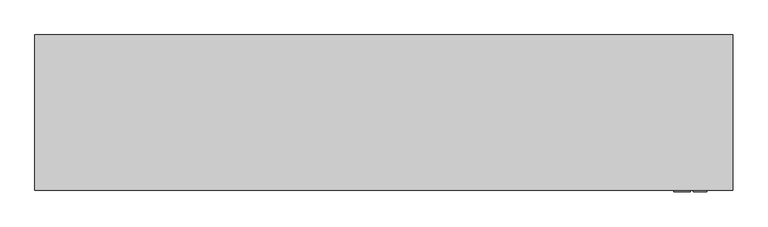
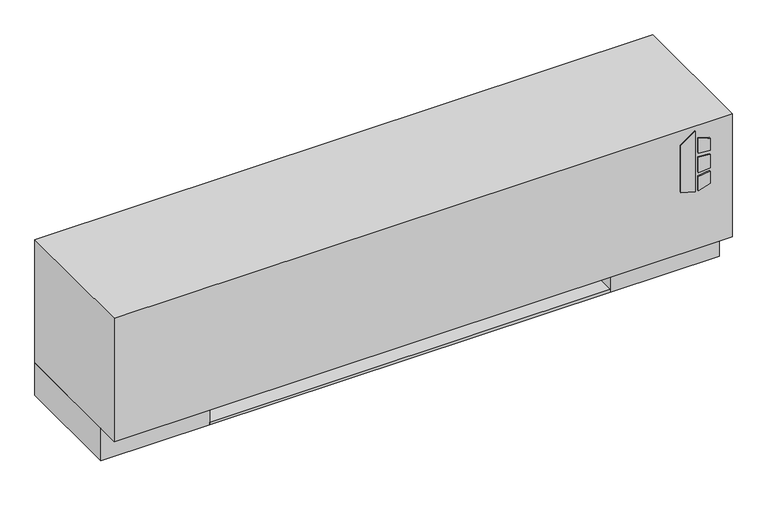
"""IFC4 building model written with IfcOpenShell, lengths in millimetres: proxy geometry, Exposed_Low_Boy_Fan_Coil_Unit Fan_-_LXA_-_IEC_-_4-Pipe_LH_2022 : Size 04 - 277v/60Hz/1Ph - 2/1 Coil."""

from ifc_helpers import new_model, si_unit, point, frame, frame_2d, origin, origin_with_axes, place, context, project, spatial, polyline, circle_curve, trimmed, segment, composite_curve, outline, extrude, faceted_brep, source, transform, mapped, element, save


def mechanical_equipment_2964302d(model_context):
    return source(origin(), model_context, "Body", "SolidModel", [
        faceted_brep([(1460.5, -266.7, 114.3), (1282.7, -266.7, 114.3), (1282.7, -520.7, 114.3), (1460.5, -520.7, 114.3), (1285.875, -269.875, 114.3), (1457.325, -269.875, 114.3), (1457.325, -517.525, 114.3), (1285.875, -517.525, 114.3), (1460.5, -266.7, 88.9), (1460.5, -520.7, 88.9), (1282.7, -520.7, 88.9), (1282.7, -266.7, 88.9), (1457.325, -269.875, 92.0747888), (1285.875, -269.875, 92.0747888), (1285.875, -517.525, 92.0747888), (1457.325, -517.525, 92.0747888)], [[[0, 1, 2, 3], [4, 5, 6, 7]], [[8, 9, 10, 11]], [[1, 0, 8, 11]], [[2, 1, 11, 10]], [[3, 2, 10, 9]], [[0, 3, 9, 8]], [[12, 13, 14, 15]], [[13, 12, 5, 4]], [[14, 13, 4, 7]], [[15, 14, 7, 6]], [[12, 15, 6, 5]]]),
        extrude(outline(composite_curve([segment(trimmed(circle_curve(frame_2d((1371.6, -393.7)), 9.525), [point((1362.075, -393.7))], [point((1381.125, -393.7))], False, "CARTESIAN"), True, "CONTINUOUS"), segment(trimmed(circle_curve(frame_2d((1371.6, -393.7)), 9.525), [point((1381.125, -393.7))], [point((1362.075, -393.7))], False, "CARTESIAN"), True, "CONTINUOUS")], self_intersect=False)), frame((0.0, 0.0, 63.5), z_axis=(0.0, 0.0, 1.0), x_axis=(1.0, 0.0, 0.0)), (0.0, 0.0, 1.0), 25.4),
        extrude(outline(polyline([(222.6730703, 1408.1868862), (212.725, 1440.3602728), (354.8959244, 1440.3602728), (331.8739183, 1408.1868862), (222.6730703, 1408.1868862)])), frame((0.0, -546.1, 0.0), z_axis=(0.0, 1.0, 0.0), x_axis=(0.0, 0.0, 1.0)), (0.0, 0.0, 1.0), 3.175),
        extrude(outline(polyline([(301.6723557, 1447.1186058), (298.4699632, 1473.2), (327.6988042, 1473.2), (335.7632193, 1447.1186058), (301.6723557, 1447.1186058)])), frame((0.0, -546.1, 0.0), z_axis=(0.0, 1.0, 0.0), x_axis=(0.0, 0.0, 1.0)), (0.0, 0.0, 1.0), 3.175),
        extrude(outline(polyline([(249.8088288, 1473.2), (246.1433279, 1447.1186058), (212.725, 1447.1186058), (221.3592372, 1473.2), (249.8088288, 1473.2)])), frame((0.0, -546.1, 0.0), z_axis=(0.0, 1.0, 0.0), x_axis=(0.0, 0.0, 1.0)), (0.0, 0.0, 1.0), 3.175),
        extrude(outline(polyline([(289.1239903, 1473.2), (291.4058166, 1447.1186058), (255.4682681, 1447.1186058), (258.2095331, 1473.2), (289.1239903, 1473.2)])), frame((0.0, -546.1, 0.0), z_axis=(0.0, 1.0, 0.0), x_axis=(0.0, 0.0, 1.0)), (0.0, 0.0, 1.0), 3.175),
        faceted_brep([(1524.0, -238.125, 365.125), (152.4, -238.125, 365.125), (152.4, -542.925, 365.125), (1524.0, -542.925, 365.125), (1524.0, -238.125, 76.2), (1524.0, -542.925, 76.2), (152.4, -542.925, 76.2), (152.4, -238.125, 76.2), (165.1, -238.125, 76.2), (165.1, -517.525, 76.2), (393.7, -517.525, 76.2), (393.7, -238.125, 76.2), (1282.7, -238.125, 76.2), (1282.7, -517.525, 76.2), (1511.3, -517.525, 76.2), (1511.3, -238.125, 76.2), (1511.3, -238.125, 339.725), (1282.7, -238.125, 339.725), (393.7, -238.125, 339.725), (165.1, -238.125, 339.725), (1511.3, -517.525, 339.725), (1282.7, -517.525, 339.725), (393.7, -517.525, 339.725), (165.1, -517.525, 339.725)], [[[0, 1, 2, 3]], [[4, 5, 6, 7, 8, 9, 10, 11, 12, 13, 14, 15]], [[1, 0, 4, 15, 16, 17, 12, 11, 18, 19, 8, 7]], [[2, 1, 7, 6]], [[3, 2, 6, 5]], [[0, 3, 5, 4]], [[16, 20, 21, 17]], [[18, 22, 23, 19]], [[17, 21, 13, 12]], [[21, 20, 14, 13]], [[20, 16, 15, 14]], [[19, 23, 9, 8]], [[23, 22, 10, 9]], [[22, 18, 11, 10]]]),
        extrude(outline(polyline([(1282.7, -492.125), (393.7, -492.125), (393.7, -244.475), (1282.7, -244.475), (1282.7, -492.125)])), origin_with_axes(), (0.0, 0.0, 1.0), 6.35),
        extrude(outline(polyline([(1282.7, -238.125), (1282.7, -244.475), (393.7, -244.475), (393.7, -238.125), (1282.7, -238.125)])), origin_with_axes(), (0.0, 0.0, 1.0), 76.2),
        extrude(outline(polyline([(1524.0, -238.125), (1524.0, -492.125), (1282.7, -492.125), (1282.7, -238.125), (1524.0, -238.125)]), holes=[polyline([(1295.4, -485.775), (1511.3, -485.775), (1511.3, -244.475), (1295.4, -244.475), (1295.4, -485.775)])]), origin_with_axes(), (0.0, 0.0, 1.0), 76.2),
        extrude(outline(polyline([(393.7, -238.125), (393.7, -492.125), (152.4, -492.125), (152.4, -238.125), (393.7, -238.125)]), holes=[polyline([(381.0, -244.475), (165.1, -244.475), (165.1, -485.775), (381.0, -485.775), (381.0, -244.475)])]), origin_with_axes(), (0.0, 0.0, 1.0), 76.2),
        extrude(outline(composite_curve([segment(trimmed(circle_curve(frame_2d((-485.775, 268.2875)), 7.9375), [point((-485.775, 260.35))], [point((-485.775, 276.225))], False, "CARTESIAN"), True, "CONTINUOUS"), segment(trimmed(circle_curve(frame_2d((-485.775, 268.2875)), 7.9375), [point((-485.775, 276.225))], [point((-485.775, 260.35))], False, "CARTESIAN"), True, "CONTINUOUS")], self_intersect=False)), frame((1282.7, 0.0, 0.0), z_axis=(1.0, 0.0, 0.0), x_axis=(0.0, 1.0, 0.0)), (0.0, 0.0, 1.0), 50.8),
        extrude(outline(composite_curve([segment(trimmed(circle_curve(frame_2d((-485.775, 227.0125)), 7.9375), [point((-485.775, 219.075))], [point((-485.775, 234.95))], False, "CARTESIAN"), True, "CONTINUOUS"), segment(trimmed(circle_curve(frame_2d((-485.775, 227.0125)), 7.9375), [point((-485.775, 234.95))], [point((-485.775, 219.075))], False, "CARTESIAN"), True, "CONTINUOUS")], self_intersect=False)), frame((1282.7, 0.0, 0.0), z_axis=(1.0, 0.0, 0.0), x_axis=(0.0, 1.0, 0.0)), (0.0, 0.0, 1.0), 50.8),
        extrude(outline(composite_curve([segment(trimmed(circle_curve(frame_2d((-269.875, 273.05)), 7.9375), [point((-269.875, 265.1125))], [point((-269.875, 280.9875))], False, "CARTESIAN"), True, "CONTINUOUS"), segment(trimmed(circle_curve(frame_2d((-269.875, 273.05)), 7.9375), [point((-269.875, 280.9875))], [point((-269.875, 265.1125))], False, "CARTESIAN"), True, "CONTINUOUS")], self_intersect=False)), frame((1282.7, 0.0, 0.0), z_axis=(1.0, 0.0, 0.0), x_axis=(0.0, 1.0, 0.0)), (0.0, 0.0, 1.0), 50.8),
        extrude(outline(composite_curve([segment(trimmed(circle_curve(frame_2d((-271.4625, 314.325)), 7.9375), [point((-271.4625, 306.3875))], [point((-271.4625, 322.2625))], False, "CARTESIAN"), True, "CONTINUOUS"), segment(trimmed(circle_curve(frame_2d((-271.4625, 314.325)), 7.9375), [point((-271.4625, 322.2625))], [point((-271.4625, 306.3875))], False, "CARTESIAN"), True, "CONTINUOUS")], self_intersect=False)), frame((1282.7, 0.0, 0.0), z_axis=(1.0, 0.0, 0.0), x_axis=(0.0, 1.0, 0.0)), (0.0, 0.0, 1.0), 50.8),
    ])


if __name__ == "__main__":
    model = new_model("IFC4")
    model_context = context("Model", 3, world=origin())
    ifc_project = project(units=[si_unit("LENGTHUNIT", "METRE", prefix="MILLI")], contexts=[model_context])
    site = spatial("IfcSite", under=ifc_project)
    building = spatial("IfcBuilding", under=site)
    placement = place(None, origin())
    mechanical_equipment_shape = mechanical_equipment_2964302d(model_context)
    element("IfcBuildingElementProxy", 1, Name="Exposed_Low_Boy_Fan_Coil_Unit Fan_-_LXA_-_IEC_-_4-Pipe_LH_2022 : Size 04 - 277v/60Hz/1Ph - 2/1 Coil", ObjectType="Exposed_Low_Boy_Fan_Coil_Unit Fan_-_LXA_-_IEC_-_4-Pipe_LH_2022 : Size 04 - 277v/60Hz/1Ph - 2/1 Coil", at=placement, inside=building, context=model_context, shape_type="MappedRepresentation", body=[
        mapped(mechanical_equipment_shape, transform((0.0, 0.0, 0.0), x_axis=(1.0, 0.0, 0.0), y_axis=(0.0, 1.0, 0.0), z_axis=(0.0, 0.0, 1.0))),
    ])
    save(model, "model.ifc")
